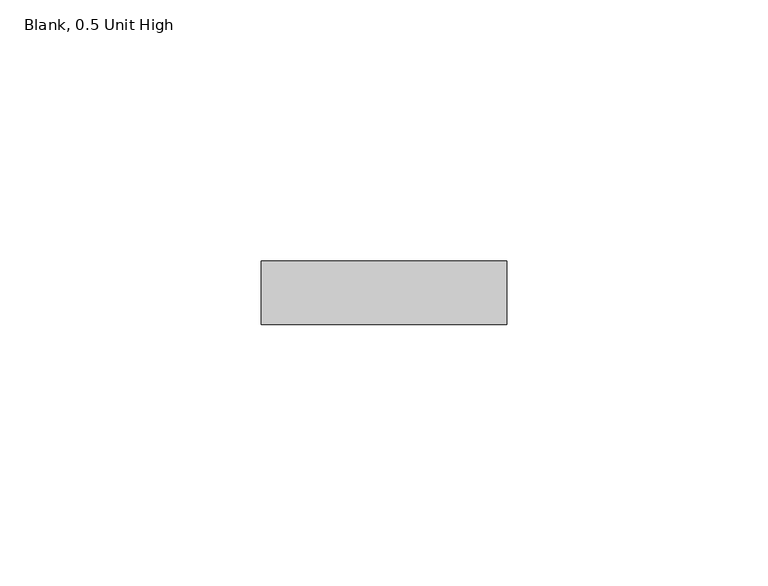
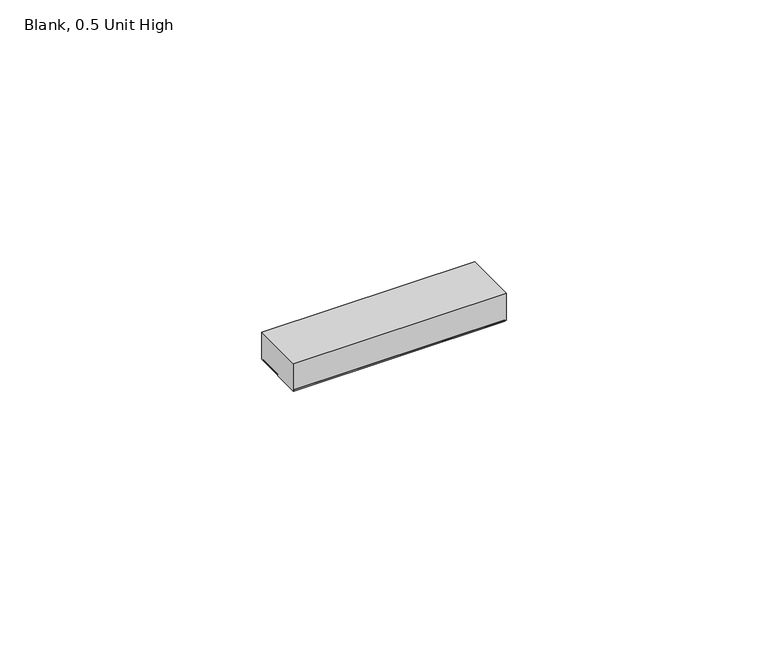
"""IFC4 building model written with IfcOpenShell, lengths in millimetres: electric appliance geometry, Data_Device-Work_Area-Leviton-MOS-Adapter-QuickPort : Blank, 0.5 Unit High."""

from ifc_helpers import new_model, si_unit, frame, origin, place, context, project, spatial, polyline, outline, extrude, source, transform, mapped, element, save


def blank_0_5_unit_high_0a404149(model_context):
    return source(origin(), model_context, "Body", "SweptSolid", [
        extrude(outline(polyline([(0.2159, 20.1295), (0.2159, 8.4455), (-46.2661, 8.4455), (-46.2661, 20.1295), (0.2159, 20.1295)])), frame((0.0, 0.0, -6.35), z_axis=(0.0, 0.0, 1.0), x_axis=(1.0, 0.0, 0.0)), (0.0, 0.0, 1.0), 0.254),
        extrude(outline(polyline([(0.4699, 20.3835), (0.4699, 8.1915), (-46.5201, 8.1915), (-46.5201, 20.3835), (0.4699, 20.3835)])), frame((0.0, 0.0, -6.096), z_axis=(0.0, 0.0, 1.0), x_axis=(1.0, 0.0, 0.0)), (0.0, 0.0, 1.0), 6.35),
    ])


if __name__ == "__main__":
    model = new_model("IFC4")
    model_context = context("Model", 3, world=origin())
    ifc_project = project(units=[si_unit("LENGTHUNIT", "METRE", prefix="MILLI")], contexts=[model_context])
    site = spatial("IfcSite", under=ifc_project)
    building = spatial("IfcBuilding", under=site)
    placement = place(None, origin())
    blank_0_5_unit_high_shape = blank_0_5_unit_high_0a404149(model_context)
    element("IfcElectricAppliance", 1, ObjectType="Data_Device-Work_Area-Leviton-MOS-Adapter-QuickPort : Blank, 0.5 Unit High", at=placement, inside=building, context=model_context, shape_type="MappedRepresentation", body=[
        mapped(blank_0_5_unit_high_shape, transform((0.0, 0.0, 0.0), x_axis=(1.0, 0.0, 0.0), y_axis=(0.0, 1.0, 0.0), z_axis=(0.0, 0.0, 1.0))),
    ])
    save(model, "model.ifc")
